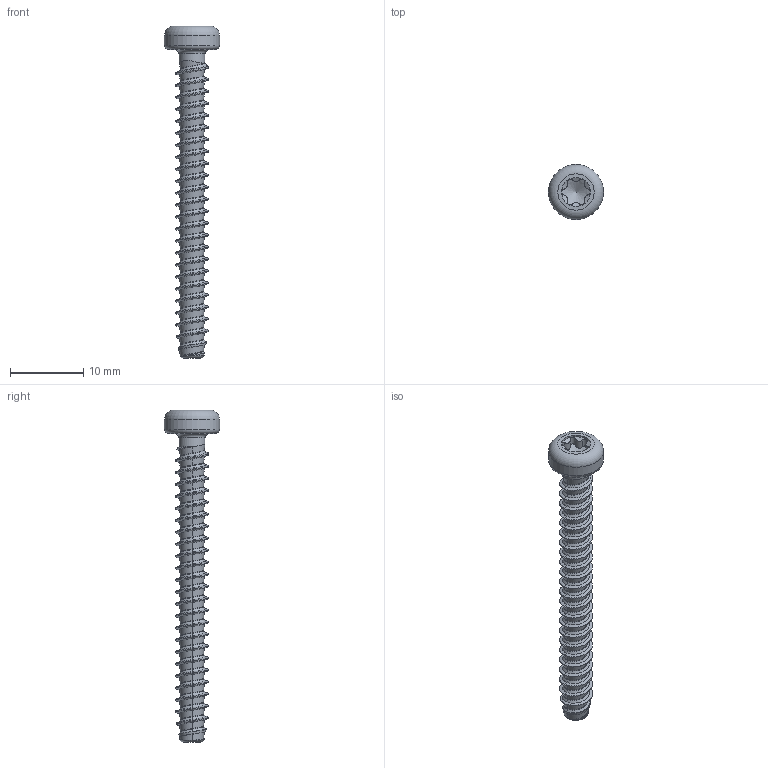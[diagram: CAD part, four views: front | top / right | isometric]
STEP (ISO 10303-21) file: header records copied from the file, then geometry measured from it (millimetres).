
FILE_DESCRIPTION(/* description */ (''),/* implementation_level */ '2;1');
FILE_NAME(/* name */ 'KN6039-STSplus-45x42-T20.step',/* time_stamp */ '2017-10-11T16:03:47+02:00',/* author */ (''),/* organization */ (''),/* preprocessor_version */ 'ST-DEVELOPER v16',/* originating_system */ 'SIEMENS PLM Software NX 10.0',/* authorisation */ '');
FILE_SCHEMA (('AUTOMOTIVE_DESIGN { 1 0 10303 214 3 1 1 1 }'));
Length unit declared in the file: millimetre
Products named in the file (1): KN6039-STSplus-45x42-T20
Bounding box: 7.5 x 7.5 x 45.2 mm (x, y, z)
Volume: 525.9 mm3; surface area: 861 mm2
Topology: 1 solids, 1 shells, 159 faces, 361 edges, 205 vertices
Faces by surface type: bspline 127, cylinder 16, cone 9, torus 4, plane 3
Full cylindrical faces by diameter (mm): 3.53 x1, 3.95 x1, 7.5 x1
Entity records: 11464 total; most frequent: CARTESIAN_POINT 8761, ORIENTED_EDGE 698, EDGE_CURVE 349, DIRECTION 236, VERTEX_POINT 202, B_SPLINE_CURVE_WITH_KNOTS 197, EDGE_LOOP 168, ADVANCED_FACE 159
